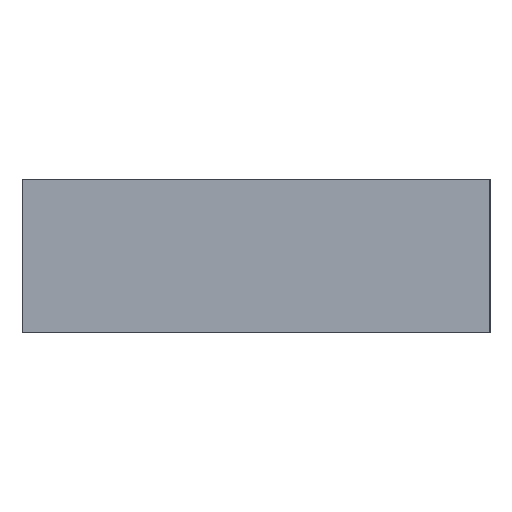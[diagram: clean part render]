
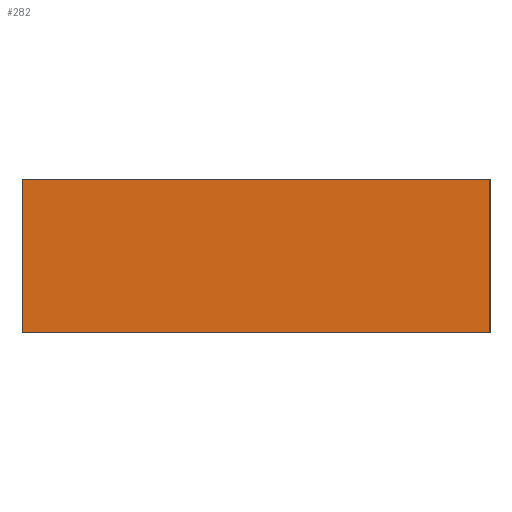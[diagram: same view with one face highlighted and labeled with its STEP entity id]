
A CAD part, left-side view. The second image highlights one B-rep face of the part: STEP entity #282.
In plain terms, the highlighted planar face has unit normal (-1, 0, 0).
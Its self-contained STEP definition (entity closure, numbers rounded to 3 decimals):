
#32 = EDGE_CURVE ( 'NONE', #330, #70, #646, .T. ) ;
#70 = VERTEX_POINT ( 'NONE', #990 ) ;
#176 = VECTOR ( 'NONE', #2255, 1000. ) ;
#220 = EDGE_CURVE ( 'NONE', #330, #455, #2305, .T. ) ;
#282 = ADVANCED_FACE ( 'NONE', ( #1967 ), #358, .F. ) ;
#324 = ORIENTED_EDGE ( 'NONE', *, *, #1338, .F. ) ;
#330 = VERTEX_POINT ( 'NONE', #1057 ) ;
#337 = DIRECTION ( 'NONE',  ( 0., 0., -1. ) ) ;
#358 = PLANE ( 'NONE',  #1293 ) ;
#375 = VERTEX_POINT ( 'NONE', #904 ) ;
#455 = VERTEX_POINT ( 'NONE', #1834 ) ;
#472 = VECTOR ( 'NONE', #1801, 1000. ) ;
#532 = DIRECTION ( 'NONE',  ( 1., 0., 0. ) ) ;
#538 = EDGE_LOOP ( 'NONE', ( #742, #324, #1859, #1002 ) ) ;
#646 = LINE ( 'NONE', #1175, #176 ) ;
#742 = ORIENTED_EDGE ( 'NONE', *, *, #1229, .T. ) ;
#771 = CARTESIAN_POINT ( 'NONE',  ( 0., 0., 51. ) ) ;
#827 = VECTOR ( 'NONE', #337, 1000. ) ;
#831 = LINE ( 'NONE', #1478, #2199 ) ;
#879 = CARTESIAN_POINT ( 'NONE',  ( 0., 0., 51. ) ) ;
#904 = CARTESIAN_POINT ( 'NONE',  ( 0., 0., 0. ) ) ;
#990 = CARTESIAN_POINT ( 'NONE',  ( 0., 0., 51. ) ) ;
#1002 = ORIENTED_EDGE ( 'NONE', *, *, #220, .T. ) ;
#1057 = CARTESIAN_POINT ( 'NONE',  ( 0., 156., 51. ) ) ;
#1175 = CARTESIAN_POINT ( 'NONE',  ( 0., 0., 51. ) ) ;
#1222 = CARTESIAN_POINT ( 'NONE',  ( 0., 156., 51. ) ) ;
#1229 = EDGE_CURVE ( 'NONE', #455, #375, #831, .T. ) ;
#1293 = AXIS2_PLACEMENT_3D ( 'NONE', #879, #532, #1784 ) ;
#1338 = EDGE_CURVE ( 'NONE', #70, #375, #1409, .T. ) ;
#1409 = LINE ( 'NONE', #771, #472 ) ;
#1478 = CARTESIAN_POINT ( 'NONE',  ( 0., 0., 0. ) ) ;
#1674 = DIRECTION ( 'NONE',  ( 0., -1., 0. ) ) ;
#1784 = DIRECTION ( 'NONE',  ( 0., 0., -1. ) ) ;
#1801 = DIRECTION ( 'NONE',  ( 0., 0., -1. ) ) ;
#1834 = CARTESIAN_POINT ( 'NONE',  ( 0., 156., 0. ) ) ;
#1859 = ORIENTED_EDGE ( 'NONE', *, *, #32, .F. ) ;
#1967 = FACE_OUTER_BOUND ( 'NONE', #538, .T. ) ;
#2199 = VECTOR ( 'NONE', #1674, 1000. ) ;
#2255 = DIRECTION ( 'NONE',  ( 0., -1., 0. ) ) ;
#2305 = LINE ( 'NONE', #1222, #827 ) ;
